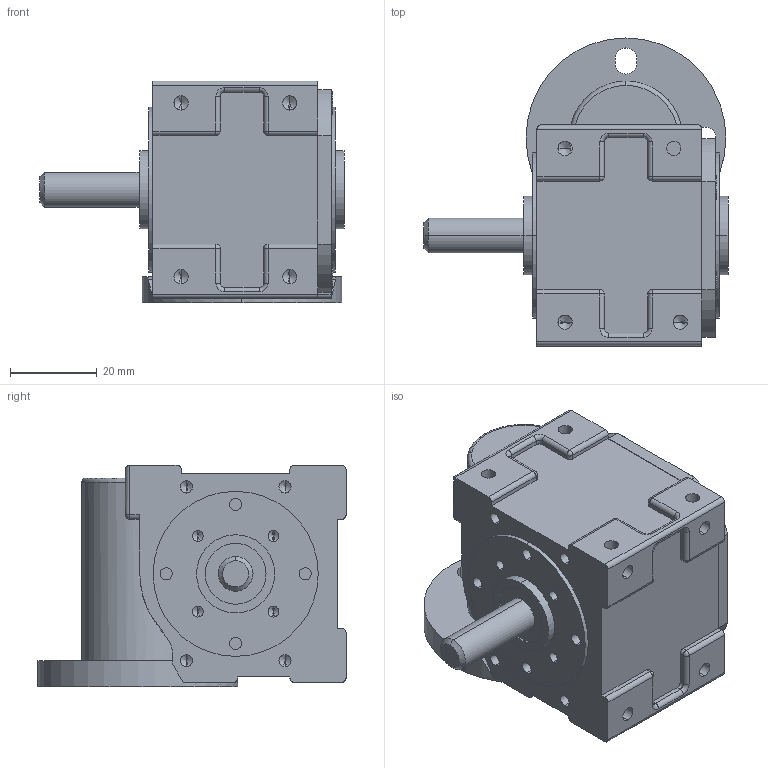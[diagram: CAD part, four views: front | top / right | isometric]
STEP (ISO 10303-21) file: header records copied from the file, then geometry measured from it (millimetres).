
FILE_DESCRIPTION (( 'STEP AP214' ), '1' );
FILE_NAME ('GS1.STEP', '2010-10-12T11:57:59', ( ' ' ), ( '' ), 'SwSTEP 2.0', 'SolidWorks 2010', '' );
FILE_SCHEMA (( 'AUTOMOTIVE_DESIGN' ));
Length unit declared in the file: millimetre
Products named in the file (1): GS1
Bounding box: 70 x 70.9 x 51 mm (x, y, z)
Volume: 94627.5 mm3; surface area: 22827.1 mm2
Topology: 1 solids, 4 shells, 393 faces, 977 edges, 575 vertices
Faces by surface type: cylinder 181, plane 129, cone 57, torus 10, sphere 10, bspline 6
Entity records: 12139 total; most frequent: CARTESIAN_POINT 2326, DIRECTION 2045, ORIENTED_EDGE 1838, EDGE_CURVE 919, AXIS2_PLACEMENT_3D 780, VERTEX_POINT 575, VECTOR 485, LINE 485
